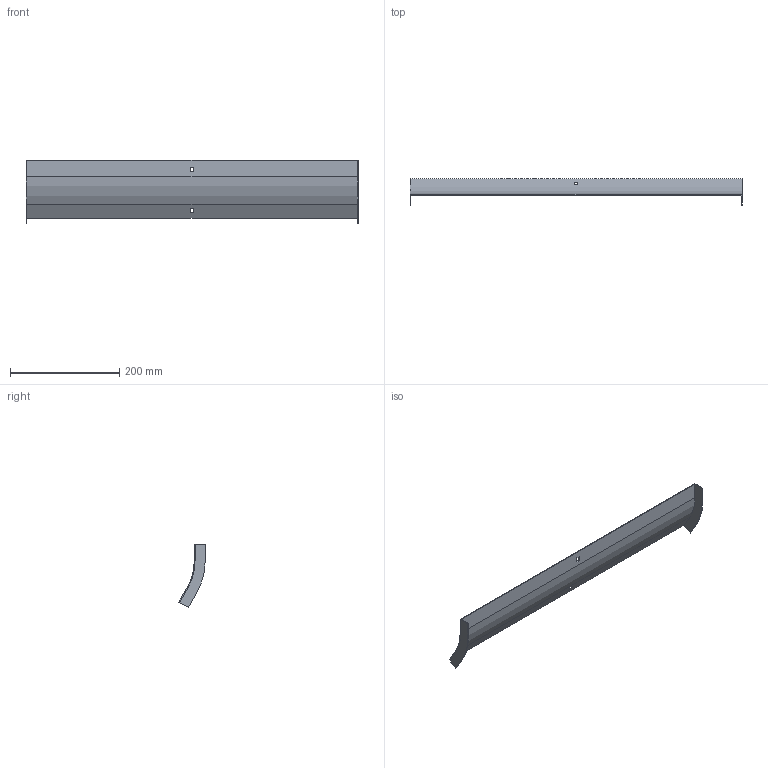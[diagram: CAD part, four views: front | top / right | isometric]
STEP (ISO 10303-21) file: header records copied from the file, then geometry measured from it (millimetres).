
FILE_DESCRIPTION (( 'STEP AP214' ), '1' );
FILE_NAME ('32G1P600.step', '2025-02-21T12:47:17', ( '' ), ( '' ), 'SwSTEP 2.0', 'SolidWorks 2023', '' );
FILE_SCHEMA (( 'AUTOMOTIVE_DESIGN' ));
Length unit declared in the file: millimetre
Products named in the file (1): 32G1P600
Bounding box: 607 x 48.2 x 115.23 mm (x, y, z)
Volume: 108275.4 mm3; surface area: 146757.2 mm2
Topology: 1 solids, 1 shells, 26 faces, 72 edges, 48 vertices
Faces by surface type: plane 22, cylinder 4
Entity records: 855 total; most frequent: CARTESIAN_POINT 147, ORIENTED_EDGE 144, DIRECTION 134, EDGE_CURVE 72, LINE 64, VECTOR 64, VERTEX_POINT 48, AXIS2_PLACEMENT_3D 35
